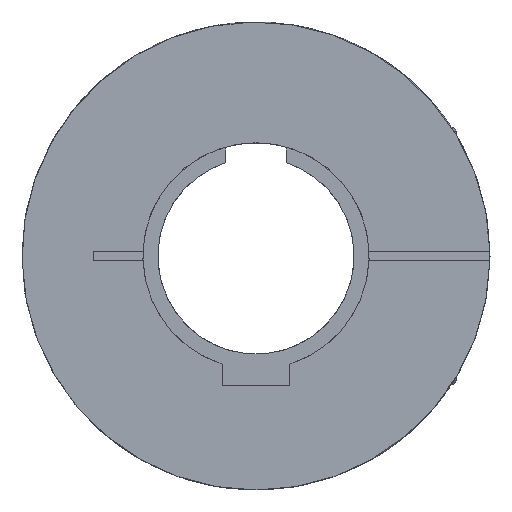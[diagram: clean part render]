
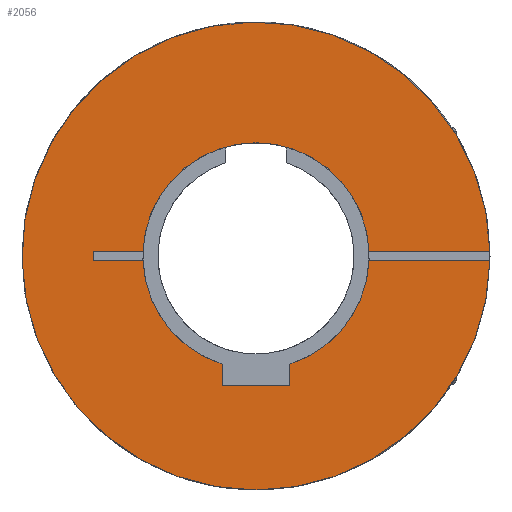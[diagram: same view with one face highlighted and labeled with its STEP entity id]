
A CAD part, left-side view. The second image highlights one B-rep face of the part: STEP entity #2056.
In plain terms, the highlighted planar face has unit normal (-1, 0, 0).
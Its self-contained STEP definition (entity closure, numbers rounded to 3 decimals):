
#221=FACE_OUTER_BOUND('',#349,.T.);
#349=EDGE_LOOP('',(#1736,#1737,#1738,#1739,#1740,#1741,#1742,#1743,#1744,
#1745,#1746,#1747,#1748));
#510=CIRCLE('',#2339,62.);
#513=CIRCLE('',#2342,62.);
#535=CIRCLE('',#2374,30.);
#537=CIRCLE('',#2376,30.);
#538=CIRCLE('',#2378,30.);
#636=LINE('',#3863,#757);
#639=LINE('',#3869,#760);
#640=LINE('',#3871,#761);
#644=LINE('',#3878,#765);
#645=LINE('',#3881,#766);
#646=LINE('',#3882,#767);
#647=LINE('',#3883,#768);
#648=LINE('',#3884,#769);
#757=VECTOR('',#2955,1.);
#760=VECTOR('',#2960,1.);
#761=VECTOR('',#2963,1.);
#765=VECTOR('',#2969,25.545);
#766=VECTOR('',#2972,2.5);
#767=VECTOR('',#2973,25.545);
#768=VECTOR('',#2974,44.532);
#769=VECTOR('',#2975,44.532);
#934=VERTEX_POINT('',#3705);
#935=VERTEX_POINT('',#3706);
#940=VERTEX_POINT('',#3716);
#975=VERTEX_POINT('',#3836);
#976=VERTEX_POINT('',#3838);
#979=VERTEX_POINT('',#3844);
#980=VERTEX_POINT('',#3846);
#981=VERTEX_POINT('',#3850);
#982=VERTEX_POINT('',#3851);
#986=VERTEX_POINT('',#3861);
#988=VERTEX_POINT('',#3867);
#990=VERTEX_POINT('',#3876);
#991=VERTEX_POINT('',#3880);
#1202=EDGE_CURVE('',#934,#935,#510,.T.);
#1208=EDGE_CURVE('',#935,#940,#513,.T.);
#1247=EDGE_CURVE('',#976,#975,#535,.T.);
#1251=EDGE_CURVE('',#980,#979,#537,.T.);
#1253=EDGE_CURVE('',#981,#982,#538,.T.);
#1259=EDGE_CURVE('',#979,#986,#636,.T.);
#1262=EDGE_CURVE('',#986,#988,#639,.T.);
#1263=EDGE_CURVE('',#988,#976,#640,.T.);
#1267=EDGE_CURVE('',#990,#975,#644,.T.);
#1268=EDGE_CURVE('',#991,#990,#645,.T.);
#1269=EDGE_CURVE('',#991,#981,#646,.T.);
#1270=EDGE_CURVE('',#982,#934,#647,.T.);
#1271=EDGE_CURVE('',#940,#980,#648,.T.);
#1736=ORIENTED_EDGE('',*,*,#1251,.T.);
#1737=ORIENTED_EDGE('',*,*,#1259,.T.);
#1738=ORIENTED_EDGE('',*,*,#1262,.T.);
#1739=ORIENTED_EDGE('',*,*,#1263,.T.);
#1740=ORIENTED_EDGE('',*,*,#1247,.T.);
#1741=ORIENTED_EDGE('',*,*,#1267,.F.);
#1742=ORIENTED_EDGE('',*,*,#1268,.F.);
#1743=ORIENTED_EDGE('',*,*,#1269,.T.);
#1744=ORIENTED_EDGE('',*,*,#1253,.T.);
#1745=ORIENTED_EDGE('',*,*,#1270,.T.);
#1746=ORIENTED_EDGE('',*,*,#1202,.T.);
#1747=ORIENTED_EDGE('',*,*,#1208,.T.);
#1748=ORIENTED_EDGE('',*,*,#1271,.T.);
#1945=PLANE('',#2384);
#2056=ADVANCED_FACE('',(#221),#1945,.T.);
#2339=AXIS2_PLACEMENT_3D('',#3707,#2856,#2857);
#2342=AXIS2_PLACEMENT_3D('',#3718,#2865,#2866);
#2374=AXIS2_PLACEMENT_3D('',#3839,#2934,#2935);
#2376=AXIS2_PLACEMENT_3D('',#3847,#2940,#2941);
#2378=AXIS2_PLACEMENT_3D('',#3852,#2945,#2946);
#2384=AXIS2_PLACEMENT_3D('',#3879,#2970,#2971);
#2856=DIRECTION('center_axis',(-1.,0.,0.));
#2857=DIRECTION('ref_axis',(0.,-1.,0.02));
#2865=DIRECTION('center_axis',(-1.,0.,0.));
#2866=DIRECTION('ref_axis',(0.,-1.,0.02));
#2934=DIRECTION('center_axis',(1.,0.,0.));
#2935=DIRECTION('ref_axis',(0.,0.,
-1.));
#2940=DIRECTION('center_axis',(1.,0.,0.));
#2941=DIRECTION('ref_axis',(0.,0.,
-1.));
#2945=DIRECTION('center_axis',(1.,0.,0.));
#2946=DIRECTION('ref_axis',(0.,0.,
-1.));
#2955=DIRECTION('',(0.,0.,-1.));
#2960=DIRECTION('',(0.,1.,0.));
#2963=DIRECTION('',(0.,0.,1.));
#2969=DIRECTION('',(0.,-1.,0.));
#2970=DIRECTION('center_axis',(-1.,0.,0.));
#2971=DIRECTION('ref_axis',(0.,-1.,0.));
#2972=DIRECTION('',(0.,0.,-1.));
#2973=DIRECTION('',(0.,-1.,0.));
#2974=DIRECTION('',(0.,-1.,0.));
#2975=DIRECTION('',(0.,1.,0.));
#3705=CARTESIAN_POINT('',(0.,-61.987,1.25));
#3706=CARTESIAN_POINT('',(0.,61.987,-1.25));
#3707=CARTESIAN_POINT('Origin',(0.,0.,0.));
#3716=CARTESIAN_POINT('',(0.,-61.987,-1.25));
#3718=CARTESIAN_POINT('Origin',(0.,0.,0.));
#3836=CARTESIAN_POINT('',(0.,29.974,-1.25));
#3838=CARTESIAN_POINT('',(0.,9.,-28.618));
#3839=CARTESIAN_POINT('Origin',(0.,0.,0.));
#3844=CARTESIAN_POINT('',(0.,-9.,-28.618));
#3846=CARTESIAN_POINT('',(0.,-29.974,-1.25));
#3847=CARTESIAN_POINT('Origin',(0.,0.,0.));
#3850=CARTESIAN_POINT('',(0.,29.974,1.25));
#3851=CARTESIAN_POINT('',(0.,-29.974,1.25));
#3852=CARTESIAN_POINT('Origin',(0.,0.,0.));
#3861=CARTESIAN_POINT('',(0.,-9.,-34.4));
#3863=CARTESIAN_POINT('',(0.,-9.,-8.6));
#3867=CARTESIAN_POINT('',(0.,9.,-34.4));
#3869=CARTESIAN_POINT('',(0.,0.,-34.4));
#3871=CARTESIAN_POINT('',(0.,9.,-8.6));
#3876=CARTESIAN_POINT('',(0.,43.,-1.25));
#3878=CARTESIAN_POINT('',(0.,43.,-1.25));
#3879=CARTESIAN_POINT('Origin',(0.,0.,0.));
#3880=CARTESIAN_POINT('',(0.,43.,1.25));
#3881=CARTESIAN_POINT('',(0.,43.,1.25));
#3882=CARTESIAN_POINT('',(0.,43.,1.25));
#3883=CARTESIAN_POINT('',(0.,-17.455,1.25));
#3884=CARTESIAN_POINT('',(0.,-61.987,-1.25));
